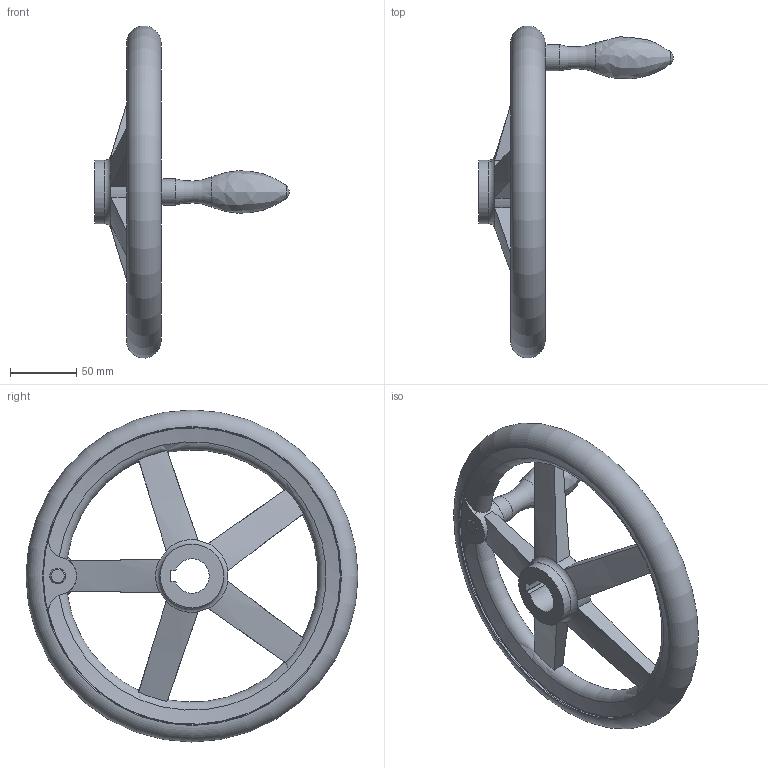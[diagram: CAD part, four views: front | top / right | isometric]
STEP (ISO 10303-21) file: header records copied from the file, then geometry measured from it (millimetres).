
FILE_DESCRIPTION( ( 'STEP AP203' ), '1' );
FILE_NAME( 'C:/Temp/Ganter_Step_05_03_2020/data/1_3/din_950/din_950_k/din_950_k_f/Handwheel DIN 950-AL-250-K26-F.stp', '2020-03-05T10:31:22', ( 'License CC BY-ND 4.0' ), ( 'CADENAS' ), ' ', 'PARTsolutions', ' ' );
FILE_SCHEMA( ( 'CONFIG_CONTROL_DESIGN' ) );
Length unit declared in the file: millimetre
Products named in the file (1): _Handwheel DIN 950-AL-250-K26-F
Bounding box: 146.5 x 249.94 x 249.94 mm (x, y, z)
Volume: 555481.9 mm3; surface area: 102126.2 mm2
Topology: 1 solids, 1 shells, 61 faces, 179 edges, 116 vertices
Faces by surface type: cylinder 19, plane 18, torus 13, cone 9, sphere 1, bspline 1
Full cylindrical faces by diameter (mm): 12 x1, 19.8 x1, 48 x2, 224 x2
Entity records: 2449 total; most frequent: CARTESIAN_POINT 952, ORIENTED_EDGE 306, DIRECTION 276, EDGE_CURVE 153, AXIS2_PLACEMENT_3D 124, VERTEX_POINT 110, EDGE_LOOP 87, FACE_OUTER_BOUND 76
